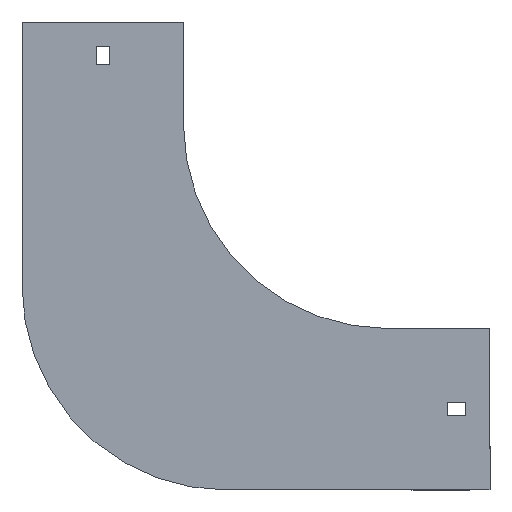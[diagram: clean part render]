
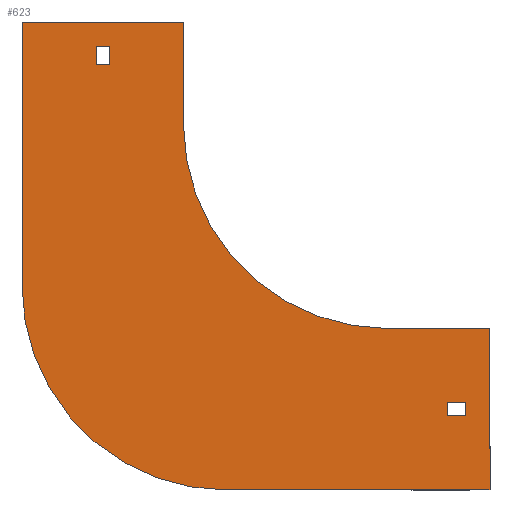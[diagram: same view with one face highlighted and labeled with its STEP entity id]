
A CAD part, front view. The second image highlights one B-rep face of the part: STEP entity #623.
In plain terms, the highlighted planar face has unit normal (0, -1, 0).
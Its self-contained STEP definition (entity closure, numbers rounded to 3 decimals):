
#8 = EDGE_CURVE ( 'NONE', #1089, #868, #969, .T. ) ;
#28 = ORIENTED_EDGE ( 'NONE', *, *, #916, .F. ) ;
#29 = VERTEX_POINT ( 'NONE', #574 ) ;
#31 = ORIENTED_EDGE ( 'NONE', *, *, #241, .F. ) ;
#45 = CARTESIAN_POINT ( 'NONE',  ( 29., 0., -136.25 ) ) ;
#52 = CARTESIAN_POINT ( 'NONE',  ( 50., 0., -100. ) ) ;
#53 = VERTEX_POINT ( 'NONE', #1094 ) ;
#57 = VECTOR ( 'NONE', #72, 1000. ) ;
#68 = CARTESIAN_POINT ( 'NONE',  ( -142.75, 0., 38. ) ) ;
#71 = PLANE ( 'NONE',  #303 ) ;
#72 = DIRECTION ( 'NONE',  ( 0., 0., 1. ) ) ;
#77 = LINE ( 'NONE', #598, #57 ) ;
#99 = LINE ( 'NONE', #420, #216 ) ;
#109 = CARTESIAN_POINT ( 'NONE',  ( 38., 0., -136.25 ) ) ;
#118 = VECTOR ( 'NONE', #929, 1000. ) ;
#153 = CARTESIAN_POINT ( 'NONE',  ( -79., 0., -79. ) ) ;
#168 = EDGE_CURVE ( 'NONE', #726, #839, #709, .T. ) ;
#174 = FACE_BOUND ( 'NONE', #999, .T. ) ;
#179 = ORIENTED_EDGE ( 'NONE', *, *, #1208, .F. ) ;
#184 = VECTOR ( 'NONE', #1068, 1000. ) ;
#195 = CARTESIAN_POINT ( 'NONE',  ( -179., 0., 50. ) ) ;
#201 = LINE ( 'NONE', #876, #889 ) ;
#216 = VECTOR ( 'NONE', #841, 1000. ) ;
#219 = ORIENTED_EDGE ( 'NONE', *, *, #1185, .F. ) ;
#225 = EDGE_CURVE ( 'NONE', #453, #1089, #77, .T. ) ;
#227 = CARTESIAN_POINT ( 'NONE',  ( -136.25, 0., 38. ) ) ;
#231 = ORIENTED_EDGE ( 'NONE', *, *, #830, .F. ) ;
#232 = LINE ( 'NONE', #543, #758 ) ;
#239 = CARTESIAN_POINT ( 'NONE',  ( 0., 0., -100. ) ) ;
#241 = EDGE_CURVE ( 'NONE', #738, #400, #1046, .T. ) ;
#258 = DIRECTION ( 'NONE',  ( 0., 0., 1. ) ) ;
#262 = VECTOR ( 'NONE', #655, 1000. ) ;
#265 = FACE_OUTER_BOUND ( 'NONE', #1380, .T. ) ;
#281 = LINE ( 'NONE', #848, #1350 ) ;
#282 = ORIENTED_EDGE ( 'NONE', *, *, #785, .F. ) ;
#283 = CARTESIAN_POINT ( 'NONE',  ( -142.75, 0., 29. ) ) ;
#293 = CARTESIAN_POINT ( 'NONE',  ( 29., 0., -142.75 ) ) ;
#301 = CARTESIAN_POINT ( 'NONE',  ( 38., 0., -142.75 ) ) ;
#303 = AXIS2_PLACEMENT_3D ( 'NONE', #897, #1330, #1341 ) ;
#320 = CIRCLE ( 'NONE', #1163, 100. ) ;
#322 = VECTOR ( 'NONE', #759, 1000. ) ;
#333 = CARTESIAN_POINT ( 'NONE',  ( 0., 0., 0. ) ) ;
#335 = CARTESIAN_POINT ( 'NONE',  ( -142.75, 0., 29. ) ) ;
#343 = DIRECTION ( 'NONE',  ( 0., 0., -1. ) ) ;
#400 = VERTEX_POINT ( 'NONE', #301 ) ;
#404 = LINE ( 'NONE', #833, #1342 ) ;
#410 = CARTESIAN_POINT ( 'NONE',  ( -179., 0., -79. ) ) ;
#412 = EDGE_CURVE ( 'NONE', #1373, #1035, #404, .T. ) ;
#420 = CARTESIAN_POINT ( 'NONE',  ( 50., 0., -179. ) ) ;
#429 = CARTESIAN_POINT ( 'NONE',  ( 38., 0., -142.75 ) ) ;
#443 = VERTEX_POINT ( 'NONE', #239 ) ;
#444 = DIRECTION ( 'NONE',  ( -1., 0., 0. ) ) ;
#447 = CARTESIAN_POINT ( 'NONE',  ( -100., 0., 0. ) ) ;
#453 = VERTEX_POINT ( 'NONE', #335 ) ;
#467 = FACE_BOUND ( 'NONE', #1240, .T. ) ;
#526 = DIRECTION ( 'NONE',  ( 0., 0., -1. ) ) ;
#543 = CARTESIAN_POINT ( 'NONE',  ( -100., 0., 50. ) ) ;
#546 = ORIENTED_EDGE ( 'NONE', *, *, #640, .T. ) ;
#564 = ORIENTED_EDGE ( 'NONE', *, *, #801, .F. ) ;
#565 = DIRECTION ( 'NONE',  ( 1., 0., 0. ) ) ;
#571 = CARTESIAN_POINT ( 'NONE',  ( 50., 0., -179. ) ) ;
#574 = CARTESIAN_POINT ( 'NONE',  ( -179., 0., 50. ) ) ;
#598 = CARTESIAN_POINT ( 'NONE',  ( -142.75, 0., 29. ) ) ;
#622 = DIRECTION ( 'NONE',  ( 1., 0., 0. ) ) ;
#623 = ADVANCED_FACE ( 'NONE', ( #174, #265, #467 ), #71, .T. ) ;
#636 = CARTESIAN_POINT ( 'NONE',  ( -79., 0., -179. ) ) ;
#640 = EDGE_CURVE ( 'NONE', #53, #453, #821, .T. ) ;
#655 = DIRECTION ( 'NONE',  ( 0., 0., 1. ) ) ;
#663 = ORIENTED_EDGE ( 'NONE', *, *, #1184, .F. ) ;
#664 = ORIENTED_EDGE ( 'NONE', *, *, #168, .F. ) ;
#709 = CIRCLE ( 'NONE', #734, 100. ) ;
#720 = ORIENTED_EDGE ( 'NONE', *, *, #733, .T. ) ;
#726 = VERTEX_POINT ( 'NONE', #636 ) ;
#727 = DIRECTION ( 'NONE',  ( 0., 0., -1. ) ) ;
#733 = EDGE_CURVE ( 'NONE', #868, #53, #1057, .T. ) ;
#734 = AXIS2_PLACEMENT_3D ( 'NONE', #153, #808, #258 ) ;
#738 = VERTEX_POINT ( 'NONE', #293 ) ;
#743 = VECTOR ( 'NONE', #565, 1000. ) ;
#751 = ORIENTED_EDGE ( 'NONE', *, *, #1111, .F. ) ;
#758 = VECTOR ( 'NONE', #884, 1000. ) ;
#759 = DIRECTION ( 'NONE',  ( 0., 0., 1. ) ) ;
#768 = LINE ( 'NONE', #1107, #743 ) ;
#777 = ORIENTED_EDGE ( 'NONE', *, *, #838, .F. ) ;
#785 = EDGE_CURVE ( 'NONE', #29, #791, #850, .T. ) ;
#791 = VERTEX_POINT ( 'NONE', #1166 ) ;
#801 = EDGE_CURVE ( 'NONE', #1186, #1314, #201, .T. ) ;
#808 = DIRECTION ( 'NONE',  ( 0., 1., 0. ) ) ;
#821 = LINE ( 'NONE', #283, #1377 ) ;
#830 = EDGE_CURVE ( 'NONE', #1329, #443, #320, .T. ) ;
#833 = CARTESIAN_POINT ( 'NONE',  ( 50., 0., -100. ) ) ;
#838 = EDGE_CURVE ( 'NONE', #791, #1329, #232, .T. ) ;
#839 = VERTEX_POINT ( 'NONE', #1194 ) ;
#841 = DIRECTION ( 'NONE',  ( -1., 0., 0. ) ) ;
#848 = CARTESIAN_POINT ( 'NONE',  ( 29., 0., -142.75 ) ) ;
#850 = LINE ( 'NONE', #195, #1372 ) ;
#868 = VERTEX_POINT ( 'NONE', #227 ) ;
#869 = DIRECTION ( 'NONE',  ( 0., -1., 0. ) ) ;
#876 = CARTESIAN_POINT ( 'NONE',  ( 29., 0., -136.25 ) ) ;
#884 = DIRECTION ( 'NONE',  ( 0., 0., -1. ) ) ;
#889 = VECTOR ( 'NONE', #444, 1000. ) ;
#895 = ORIENTED_EDGE ( 'NONE', *, *, #8, .T. ) ;
#897 = CARTESIAN_POINT ( 'NONE',  ( 0., 0., 0. ) ) ;
#916 = EDGE_CURVE ( 'NONE', #443, #1373, #768, .T. ) ;
#929 = DIRECTION ( 'NONE',  ( 1., 0., 0. ) ) ;
#941 = ORIENTED_EDGE ( 'NONE', *, *, #412, .F. ) ;
#955 = LINE ( 'NONE', #410, #322 ) ;
#969 = LINE ( 'NONE', #1404, #184 ) ;
#999 = EDGE_LOOP ( 'NONE', ( #1362, #895, #720, #546 ) ) ;
#1035 = VERTEX_POINT ( 'NONE', #571 ) ;
#1046 = LINE ( 'NONE', #1148, #118 ) ;
#1057 = LINE ( 'NONE', #1070, #1213 ) ;
#1068 = DIRECTION ( 'NONE',  ( 1., 0., 0. ) ) ;
#1070 = CARTESIAN_POINT ( 'NONE',  ( -136.25, 0., 29. ) ) ;
#1089 = VERTEX_POINT ( 'NONE', #68 ) ;
#1094 = CARTESIAN_POINT ( 'NONE',  ( -136.25, 0., 29. ) ) ;
#1107 = CARTESIAN_POINT ( 'NONE',  ( 0., 0., -100. ) ) ;
#1111 = EDGE_CURVE ( 'NONE', #1314, #738, #281, .T. ) ;
#1145 = DIRECTION ( 'NONE',  ( -1., 0., 0. ) ) ;
#1148 = CARTESIAN_POINT ( 'NONE',  ( 29., 0., -142.75 ) ) ;
#1163 = AXIS2_PLACEMENT_3D ( 'NONE', #333, #869, #343 ) ;
#1166 = CARTESIAN_POINT ( 'NONE',  ( -100., 0., 50. ) ) ;
#1184 = EDGE_CURVE ( 'NONE', #1035, #726, #99, .T. ) ;
#1185 = EDGE_CURVE ( 'NONE', #839, #29, #955, .T. ) ;
#1186 = VERTEX_POINT ( 'NONE', #109 ) ;
#1194 = CARTESIAN_POINT ( 'NONE',  ( -179., 0., -79. ) ) ;
#1208 = EDGE_CURVE ( 'NONE', #400, #1186, #1407, .T. ) ;
#1213 = VECTOR ( 'NONE', #727, 1000. ) ;
#1240 = EDGE_LOOP ( 'NONE', ( #179, #31, #751, #564 ) ) ;
#1314 = VERTEX_POINT ( 'NONE', #45 ) ;
#1329 = VERTEX_POINT ( 'NONE', #447 ) ;
#1330 = DIRECTION ( 'NONE',  ( 0., -1., 0. ) ) ;
#1341 = DIRECTION ( 'NONE',  ( 0., 0., -1. ) ) ;
#1342 = VECTOR ( 'NONE', #1385, 1000. ) ;
#1350 = VECTOR ( 'NONE', #526, 1000. ) ;
#1362 = ORIENTED_EDGE ( 'NONE', *, *, #225, .T. ) ;
#1372 = VECTOR ( 'NONE', #622, 1000. ) ;
#1373 = VERTEX_POINT ( 'NONE', #52 ) ;
#1377 = VECTOR ( 'NONE', #1145, 1000. ) ;
#1380 = EDGE_LOOP ( 'NONE', ( #282, #219, #664, #663, #941, #28, #231, #777 ) ) ;
#1385 = DIRECTION ( 'NONE',  ( 0., 0., -1. ) ) ;
#1404 = CARTESIAN_POINT ( 'NONE',  ( -142.75, 0., 38. ) ) ;
#1407 = LINE ( 'NONE', #429, #262 ) ;
